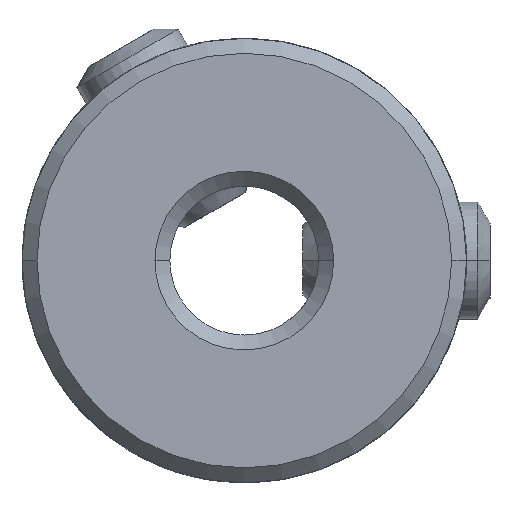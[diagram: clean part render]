
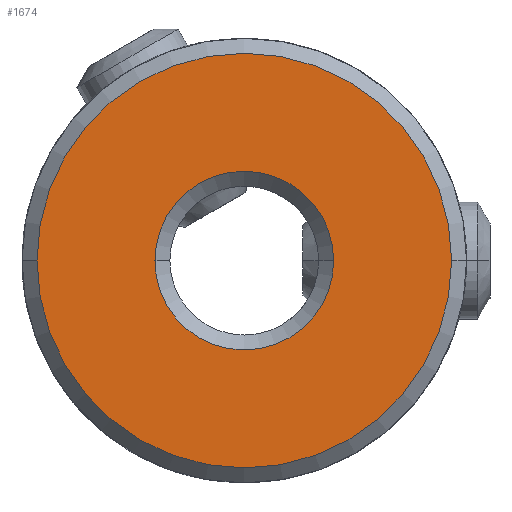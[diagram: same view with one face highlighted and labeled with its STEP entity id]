
A CAD part, front view. The second image highlights one B-rep face of the part: STEP entity #1674.
In plain terms, the highlighted planar face has unit normal (0, -1, 0).
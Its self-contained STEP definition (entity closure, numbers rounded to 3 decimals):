
#2=CARTESIAN_POINT('',(0.,-7.1,0.));
#3=DIRECTION('',(0.,-1.,0.));
#4=DIRECTION('',(1.,0.,0.));
#5=AXIS2_PLACEMENT_3D('',#2,#3,#4);
#7=CARTESIAN_POINT('',(0.,-7.1,0.));
#8=DIRECTION('',(0.,-1.,0.));
#9=DIRECTION('',(-1.,0.,0.));
#10=AXIS2_PLACEMENT_3D('',#7,#8,#9);
#12=CARTESIAN_POINT('',(0.,-7.1,0.));
#13=DIRECTION('',(0.,1.,0.));
#14=DIRECTION('',(1.,0.,0.));
#15=AXIS2_PLACEMENT_3D('',#12,#13,#14);
#17=CARTESIAN_POINT('',(0.,-7.1,0.));
#18=DIRECTION('',(0.,1.,0.));
#19=DIRECTION('',(-1.,0.,0.));
#20=AXIS2_PLACEMENT_3D('',#17,#18,#19);
#1525=CARTESIAN_POINT('',(1.91,-7.1,0.));
#1526=CARTESIAN_POINT('',(-1.91,-7.1,0.));
#1527=VERTEX_POINT('',#1525);
#1528=VERTEX_POINT('',#1526);
#1541=CARTESIAN_POINT('',(4.43,-7.1,0.));
#1542=CARTESIAN_POINT('',(-4.43,-7.1,0.));
#1543=VERTEX_POINT('',#1541);
#1544=VERTEX_POINT('',#1542);
#1657=CARTESIAN_POINT('',(0.,-7.1,0.));
#1658=DIRECTION('',(0.,1.,0.));
#1659=DIRECTION('',(1.,0.,0.));
#1660=AXIS2_PLACEMENT_3D('',#1657,#1658,#1659);
#1661=PLANE('',#1660);
#1663=ORIENTED_EDGE('',*,*,#1662,.F.);
#1665=ORIENTED_EDGE('',*,*,#1664,.F.);
#1666=EDGE_LOOP('',(#1663,#1665));
#1667=FACE_OUTER_BOUND('',#1666,.F.);
#1669=ORIENTED_EDGE('',*,*,#1668,.F.);
#1671=ORIENTED_EDGE('',*,*,#1670,.F.);
#1672=EDGE_LOOP('',(#1669,#1671));
#1673=FACE_BOUND('',#1672,.F.);
#1674=ADVANCED_FACE('',(#1667,#1673),#1661,.F.);
#6=CIRCLE('',#5,4.43);
#11=CIRCLE('',#10,4.43);
#16=CIRCLE('',#15,1.91);
#21=CIRCLE('',#20,1.91);
#1662=EDGE_CURVE('',#1543,#1544,#6,.T.);
#1664=EDGE_CURVE('',#1544,#1543,#11,.T.);
#1668=EDGE_CURVE('',#1527,#1528,#16,.T.);
#1670=EDGE_CURVE('',#1528,#1527,#21,.T.);
